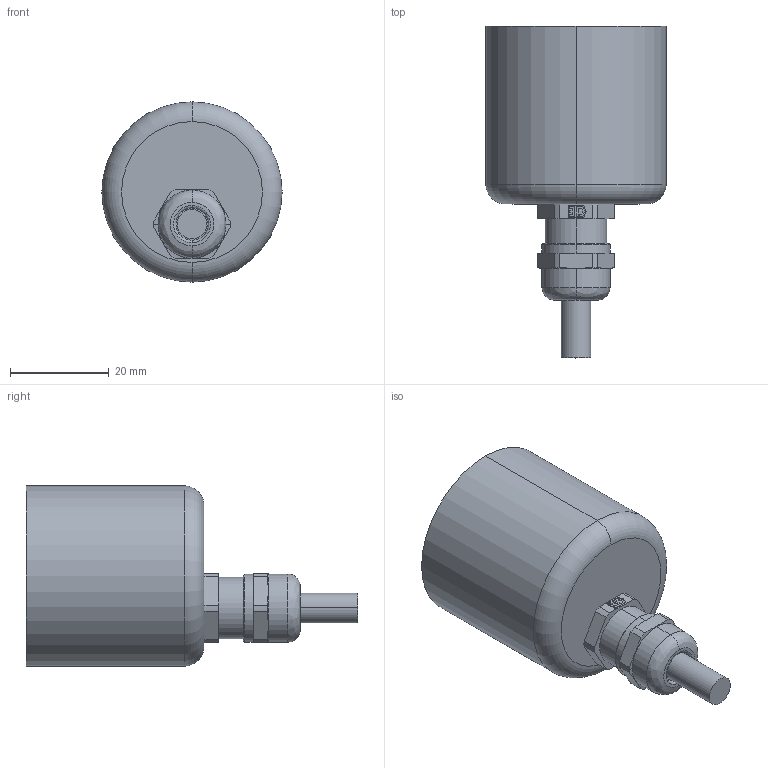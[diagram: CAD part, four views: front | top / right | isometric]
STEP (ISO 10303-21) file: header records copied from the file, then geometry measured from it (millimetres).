
FILE_DESCRIPTION (( 'STEP AP203' ), '1' );
FILE_NAME ('Drawing-MC-3-CA-360-SZM-12BNNN-N-GAW-N.STEP', '2013-04-24T13:51:35', ( '' ), ( '' ), 'SwSTEP 2.0', 'SolidWorks 2006104', '' );
FILE_SCHEMA (( 'CONFIG_CONTROL_DESIGN' ));
Length unit declared in the file: millimetre
Products named in the file (1): Drawing-MC-3-CA-360-SZM-12BNNN-N-GAW-N
Bounding box: 36.5 x 67.18 x 36.5 mm (x, y, z)
Volume: 7410.8 mm3; surface area: 13621.2 mm2
Topology: 3 solids, 3 shells, 106 faces, 262 edges, 170 vertices
Faces by surface type: plane 60, cylinder 30, cone 8, bspline 4, torus 4
Entity records: 3391 total; most frequent: CARTESIAN_POINT 773, DIRECTION 530, ORIENTED_EDGE 524, EDGE_CURVE 262, AXIS2_PLACEMENT_3D 183, VERTEX_POINT 170, LINE 164, VECTOR 164
